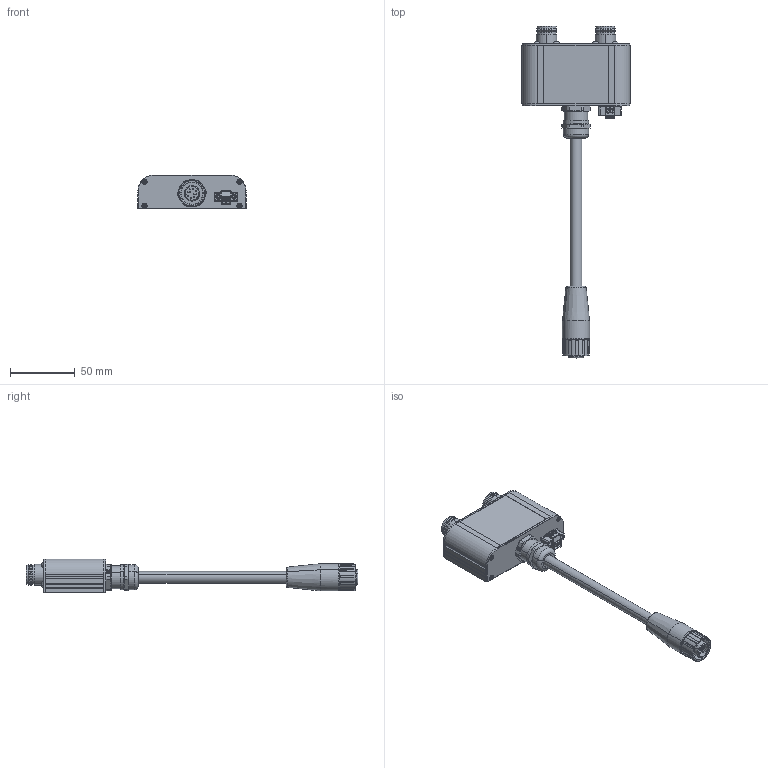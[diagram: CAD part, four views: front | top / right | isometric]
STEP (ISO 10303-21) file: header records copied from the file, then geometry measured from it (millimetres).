
FILE_DESCRIPTION (( 'STEP AP214' ), '1' );
FILE_NAME ('Sdoppiatore K-Ducer 020046.STEP', '2021-02-11T13:34:01', ( '' ), ( '' ), 'SwSTEP 2.0', 'SolidWorks 2020', '' );
FILE_SCHEMA (( 'AUTOMOTIVE_DESIGN' ));
Length unit declared in the file: millimetre
Products named in the file (1): Sdoppiatore K-Ducer 020046
Bounding box: 83.5 x 256.48 x 26 mm (x, y, z)
Surface area: 72792.1 mm2 (no closed solid volume)
Topology: 0 solids, 403 shells, 4414 faces, 9615 edges, 6122 vertices
Faces by surface type: plane 2093, cylinder 1586, cone 321, bspline 303, torus 97, sphere 14
Entity records: 181621 total; most frequent: CARTESIAN_POINT 31697, DIRECTION 21035, ORIENTED_EDGE 19087, EDGE_CURVE 9565, AXIS2_PLACEMENT_3D 8140, VERTEX_POINT 6122, EDGE_LOOP 4849, UNCERTAINTY_MEASURE_WITH_UNIT 4812
